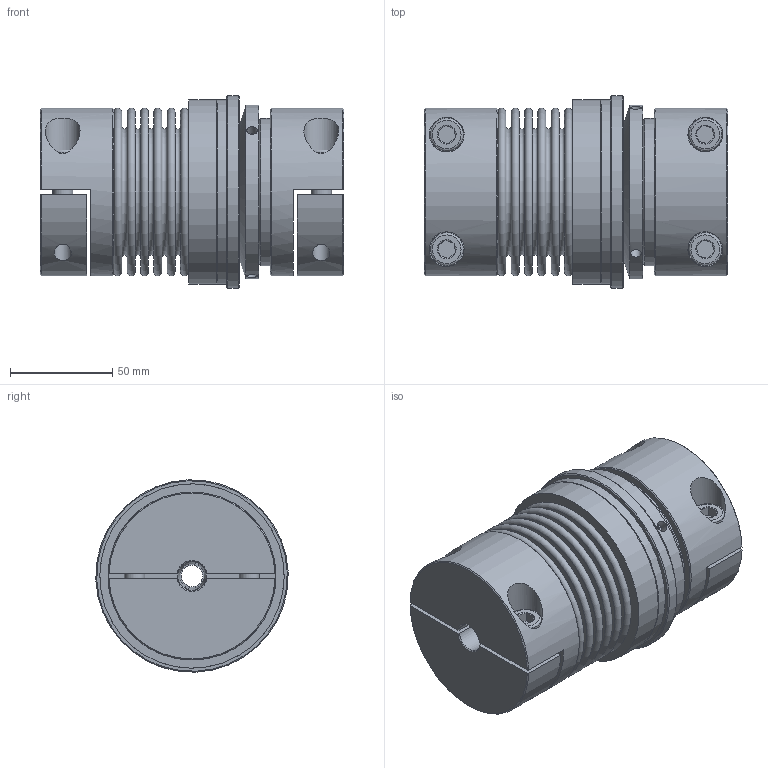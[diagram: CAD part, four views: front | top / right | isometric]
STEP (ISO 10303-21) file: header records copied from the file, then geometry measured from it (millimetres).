
FILE_DESCRIPTION( ( 'KBE1/14 - N7H8 - N14H7 - 98 Sh' ), '1' );
FILE_NAME( 'K:/Konstruktion/Fertigungszeichnungen/Überlastkupplung/KBK-B/KBK-BHH/80-150/KBK-BHH-150-148.stp', '14.12.2015', ( 'KBK-Antriebstechnik' ), ( 'KBK-Antriebstechnik' ), 'PSStep 16.0.42', 'Solid Edge St6', ' ' );
FILE_SCHEMA( ( 'AUTOMOTIVE_DESIGN { 1 0 10303 214 1 1 1 1 }' ) );
Length unit declared in the file: millimetre
Products named in the file (21): Stellring 80_0_1; a_40_0_1; Druckring 80_0_1; KBK L-P-80 Grundkörper_0_1-oa1; KBK L-P-80 Grundkörper_0_1-oa0; Flansch 80_0_1; Flansch BK150; KB4H8-150-oa4; KN4H-150-oa2; Spreiznabe KB8-150-oa3; KBK-B-H-150-oa5; 61808; ISO EN DIN 4762 M10x30; Assem1; KN4H-150-oa6; BL80-150_Standard_4
Assembly tree (23 placements, depth 4):
  Assem1
    KN4H-150-oa6
    KN4H-150-oa6
    ISO EN DIN 4762 M10x30  x2
    BL80-150_Standard_4
    KBK-B-H-150-oa5
      61808
      ISO EN DIN 4762 M10x30  x2
      KBK L-P-80 Grundkörper_0_1-oa1
        KBK L-P-80 Grundkörper_0_1-oa0
      Stellring 80_0_1
        Stellring 80_0_1
      Druckring 80_0_1
        Druckring 80_0_1
      Flansch 80_0_1
        Flansch BK150
      a_40_0_1
        a_40_0_1
      KB4H8-150-oa4
        KN4H-150-oa2
        KN4H-150-oa2
        Spreiznabe KB8-150-oa3
Bounding box: 148.25 x 93.92 x 93.92 mm (x, y, z)
Volume: 557943.7 mm3; surface area: 224976.5 mm2
Topology: 16 solids, 16 shells, 333 faces, 676 edges, 432 vertices
Faces by surface type: plane 141, cylinder 93, cone 63, torus 36
Full cylindrical faces by diameter (mm): 2.5 x2, 3.242 x3, 5 x4, 5.2 x3, 8.376 x4, 8.5 x6, 9 x4, 10 x8, 10.5 x5, 14 x2, 16 x4, 17 x4, 18 x1, 35 x1, 37.5 x1, 40 x3, 48 x1, 52 x2, 62 x2, 64 x1, 70 x1, 70.5 x1, 70.7 x2, 71.9 x3, 72.1 x2, 82 x2, 85 x1, 87 x1, 90 x2, 94 x1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
Entity records: 8998 total; most frequent: CARTESIAN_POINT 2095, DIRECTION 1158, ORIENTED_EDGE 752, AXIS2_PLACEMENT_3D 533, EDGE_LOOP 470, EDGE_CURVE 376, FACE_OUTER_BOUND 353, VERTEX_POINT 330
